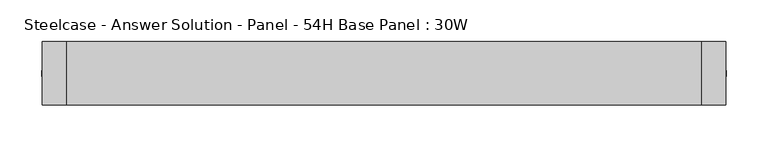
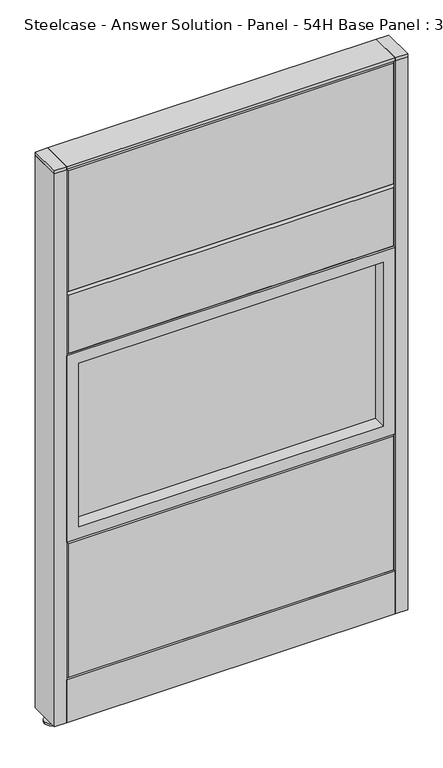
"""IFC4 building model written with IfcOpenShell, lengths in millimetres: furniture geometry, Steelcase - Answer Solution - Panel - 54H Base Panel : 30W."""

from ifc_helpers import new_model, si_unit, point, frame, frame_2d, origin, place, context, project, spatial, polyline, circle_curve, trimmed, segment, composite_curve, outline, extrude, faceted_brep, source, transform, mapped, element, save


def steelcase_answer_solution_panel_54h_base_panel_30w_b265888f(model_context):
    return source(origin(), model_context, "Body", "SolidModel", [
        extrude(outline(composite_curve([segment(trimmed(circle_curve(frame_2d((395.224, 0.0320214)), 5.08), [point((400.304, 0.0320214))], [point((390.144, 0.0320214))], False, "CARTESIAN"), True, "CONTINUOUS"), segment(trimmed(circle_curve(frame_2d((395.224, 0.0320214)), 5.08), [point((390.144, 0.0320214))], [point((400.304, 0.0320214))], False, "CARTESIAN"), True, "CONTINUOUS")], self_intersect=False)), frame((0.0, 0.0, 5.0799671), z_axis=(0.0, 0.0, 1.0), x_axis=(1.0, 0.0, 0.0)), (0.0, 0.0, 1.0), 10.414),
        extrude(outline(composite_curve([segment(trimmed(circle_curve(frame_2d((395.224, 0.0320214)), 15.24), [point((410.464, 0.0320214))], [point((379.984, 0.0320214))], False, "CARTESIAN"), True, "CONTINUOUS"), segment(trimmed(circle_curve(frame_2d((395.224, 0.0320214)), 15.24), [point((379.984, 0.0320214))], [point((410.464, 0.0320214))], False, "CARTESIAN"), True, "CONTINUOUS")], self_intersect=False)), frame((0.0, 0.0, -3.29e-05), z_axis=(0.0, 0.0, 1.0), x_axis=(1.0, 0.0, 0.0)), (0.0, 0.0, 1.0), 5.08),
        extrude(outline(polyline([(409.575, 38.1320408), (409.575, -38.0679592), (381.0, -38.0679592), (381.0, 38.1320408), (409.575, 38.1320408)])), frame((0.0, 0.0, 1370.6348), z_axis=(0.0, 0.0, 1.0), x_axis=(1.0, 0.0, 0.0)), (0.0, 0.0, 1.0), 7.3151671),
        extrude(outline(polyline([(409.575, 38.1320408), (409.575, -38.0679592), (381.0, -38.0679592), (381.0, 38.1320408), (409.575, 38.1320408)])), frame((0.0, 0.0, 15.4939671), z_axis=(0.0, 0.0, 1.0), x_axis=(1.0, 0.0, 0.0)), (0.0, 0.0, 1.0), 1355.1408329),
        extrude(outline(composite_curve([segment(trimmed(circle_curve(frame_2d((-395.224, 0.0320214)), 5.08), [point((-400.304, 0.0320214))], [point((-390.144, 0.0320214))], False, "CARTESIAN"), True, "CONTINUOUS"), segment(trimmed(circle_curve(frame_2d((-395.224, 0.0320214)), 5.08), [point((-390.144, 0.0320214))], [point((-400.304, 0.0320214))], False, "CARTESIAN"), True, "CONTINUOUS")], self_intersect=False)), frame((0.0, 0.0, 5.0799671), z_axis=(0.0, 0.0, 1.0), x_axis=(1.0, 0.0, 0.0)), (0.0, 0.0, 1.0), 10.414),
        extrude(outline(composite_curve([segment(trimmed(circle_curve(frame_2d((-395.224, 0.0320214)), 15.24), [point((-410.464, 0.0320214))], [point((-379.984, 0.0320214))], False, "CARTESIAN"), True, "CONTINUOUS"), segment(trimmed(circle_curve(frame_2d((-395.224, 0.0320214)), 15.24), [point((-379.984, 0.0320214))], [point((-410.464, 0.0320214))], False, "CARTESIAN"), True, "CONTINUOUS")], self_intersect=False)), frame((0.0, 0.0, -3.29e-05), z_axis=(0.0, 0.0, 1.0), x_axis=(1.0, 0.0, 0.0)), (0.0, 0.0, 1.0), 5.08),
        extrude(outline(polyline([(-409.575, 38.1320408), (-381.0, 38.1320408), (-381.0, -38.0679592), (-409.575, -38.0679592), (-409.575, 38.1320408)])), frame((0.0, 0.0, 1370.6348), z_axis=(0.0, 0.0, 1.0), x_axis=(1.0, 0.0, 0.0)), (0.0, 0.0, 1.0), 7.3151671),
        extrude(outline(polyline([(-409.575, 38.1320408), (-381.0, 38.1320408), (-381.0, -38.0679592), (-409.575, -38.0679592), (-409.575, 38.1320408)])), frame((0.0, 0.0, 15.4939671), z_axis=(0.0, 0.0, 1.0), x_axis=(1.0, 0.0, 0.0)), (0.0, 0.0, 1.0), 1355.1408329),
        extrude(outline(polyline([(-353.06, 6.346049), (353.06, 6.346049), (353.06, -6.353951), (-353.06, -6.353951), (-353.06, 6.346049)])), frame((0.0, 0.0, 485.14), z_axis=(0.0, 0.0, 1.0), x_axis=(1.0, 0.0, 0.0)), (0.0, 0.0, 1.0), 401.32),
        extrude(outline(polyline([(914.4, -381.0), (457.2, -381.0), (457.2, 381.0), (914.4, 381.0), (914.4, -381.0)]), holes=[polyline([(886.46, -353.06), (886.46, 353.06), (485.14, 353.06), (485.14, -353.06), (886.46, -353.06)])]), frame((0.0, -38.103951, 0.0), z_axis=(0.0, 1.0, 0.0), x_axis=(0.0, 0.0, 1.0)), (0.0, 0.0, 1.0), 76.2),
        faceted_brep([(-376.174, 38.1635011, 1366.774), (376.174, 38.1635011, 1366.774), (376.174, 38.1635011, 1071.626), (-376.174, 38.1635011, 1071.626), (-381.0, 33.3375011, 1371.6), (-381.0, 33.3375011, 1066.8), (381.0, 33.3375011, 1066.8), (381.0, 33.3375011, 1371.6)], [[[0, 1, 2, 3]], [[4, 5, 6, 7]], [[4, 7, 1, 0]], [[7, 6, 2, 1]], [[6, 5, 3, 2]], [[5, 4, 0, 3]]]),
        faceted_brep([(-376.174, 38.1635011, 1061.974), (376.174, 38.1635011, 1061.974), (376.174, 38.1635011, 919.226), (-376.174, 38.1635011, 919.226), (-381.0, 33.3375011, 1066.8), (-381.0, 33.3375011, 914.4), (381.0, 33.3375011, 914.4), (381.0, 33.3375011, 1066.8)], [[[0, 1, 2, 3]], [[4, 5, 6, 7]], [[4, 7, 1, 0]], [[7, 6, 2, 1]], [[6, 5, 3, 2]], [[5, 4, 0, 3]]]),
        faceted_brep([(-376.174, 38.1635011, 452.374), (376.174, 38.1635011, 452.374), (376.174, 38.1635011, 125.476), (-376.174, 38.1635011, 125.476), (-381.0, 33.3375011, 457.2), (-381.0, 33.3375011, 120.65), (381.0, 33.3375011, 120.65), (381.0, 33.3375011, 457.2)], [[[0, 1, 2, 3]], [[4, 5, 6, 7]], [[4, 7, 1, 0]], [[7, 6, 2, 1]], [[6, 5, 3, 2]], [[5, 4, 0, 3]]]),
        extrude(outline(polyline([(353.06, -6.346049), (-353.06, -6.346049), (-353.06, 6.353951), (353.06, 6.353951), (353.06, -6.346049)])), frame((0.0, 0.0, 485.14), z_axis=(0.0, 0.0, 1.0), x_axis=(1.0, 0.0, 0.0)), (0.0, 0.0, 1.0), 401.32),
        extrude(outline(polyline([(914.4, 381.0), (914.4, -381.0), (457.2, -381.0), (457.2, 381.0), (914.4, 381.0)]), holes=[polyline([(886.46, 353.06), (485.14, 353.06), (485.14, -353.06), (886.46, -353.06), (886.46, 353.06)])]), frame((0.0, -38.096049, 0.0), z_axis=(0.0, 1.0, 0.0), x_axis=(0.0, 0.0, 1.0)), (0.0, 0.0, 1.0), 76.2),
        faceted_brep([(376.174, -38.1635011, 1366.774), (-376.174, -38.1635011, 1366.774), (-376.174, -38.1635011, 1071.626), (376.174, -38.1635011, 1071.626), (381.0, -33.3375011, 1371.6), (381.0, -33.3375011, 1066.8), (-381.0, -33.3375011, 1066.8), (-381.0, -33.3375011, 1371.6)], [[[0, 1, 2, 3]], [[4, 5, 6, 7]], [[4, 7, 1, 0]], [[7, 6, 2, 1]], [[6, 5, 3, 2]], [[5, 4, 0, 3]]]),
        faceted_brep([(376.174, -38.1635011, 1061.974), (-376.174, -38.1635011, 1061.974), (-376.174, -38.1635011, 919.226), (376.174, -38.1635011, 919.226), (381.0, -33.3375011, 1066.8), (381.0, -33.3375011, 914.4), (-381.0, -33.3375011, 914.4), (-381.0, -33.3375011, 1066.8)], [[[0, 1, 2, 3]], [[4, 5, 6, 7]], [[4, 7, 1, 0]], [[7, 6, 2, 1]], [[6, 5, 3, 2]], [[5, 4, 0, 3]]]),
        faceted_brep([(376.174, -38.1635011, 452.374), (-376.174, -38.1635011, 452.374), (-376.174, -38.1635011, 125.476), (376.174, -38.1635011, 125.476), (381.0, -33.3375011, 457.2), (381.0, -33.3375011, 120.65), (-381.0, -33.3375011, 120.65), (-381.0, -33.3375011, 457.2)], [[[0, 1, 2, 3]], [[4, 5, 6, 7]], [[4, 7, 1, 0]], [[7, 6, 2, 1]], [[6, 5, 3, 2]], [[5, 4, 0, 3]]]),
        extrude(outline(polyline([(381.0, 38.1000194), (381.0, -38.1000194), (-381.0, -38.1000194), (-381.0, 38.1000194), (381.0, 38.1000194)])), frame((0.0, 0.0, 1371.6), z_axis=(0.0, 0.0, 1.0), x_axis=(1.0, 0.0, 0.0)), (0.0, 0.0, 1.0), 6.35),
        extrude(outline(polyline([(25.4000011, 119.8575157), (25.4000011, 120.65), (38.1000194, 120.65), (38.1000194, 15.494), (37.3075215, 15.494), (37.3075215, 119.8575157), (25.4000011, 119.8575157)])), frame((-381.0, 0.0, 0.0), z_axis=(1.0, 0.0, 0.0), x_axis=(0.0, 1.0, 0.0)), (0.0, 0.0, 1.0), 762.0),
        extrude(outline(polyline([(-25.4000011, 119.8575157), (-37.3075215, 119.8575157), (-37.3075215, 15.494), (-38.1000194, 15.494), (-38.1000194, 120.65), (-25.4000011, 120.65), (-25.4000011, 119.8575157)])), frame((-381.0, 0.0, 0.0), z_axis=(1.0, 0.0, 0.0), x_axis=(0.0, 1.0, 0.0)), (0.0, 0.0, 1.0), 762.0),
    ])


if __name__ == "__main__":
    model = new_model("IFC4")
    model_context = context("Model", 3, world=origin())
    ifc_project = project(units=[si_unit("LENGTHUNIT", "METRE", prefix="MILLI")], contexts=[model_context])
    site = spatial("IfcSite", under=ifc_project)
    building = spatial("IfcBuilding", under=site)
    placement = place(None, origin())
    steelcase_answer_solution_panel_54h_base_panel_30w_shape = steelcase_answer_solution_panel_54h_base_panel_30w_b265888f(model_context)
    element("IfcFurniture", 1, ObjectType="Steelcase - Answer Solution - Panel - 54H Base Panel : 30W", at=placement, inside=building, context=model_context, shape_type="MappedRepresentation", body=[
        mapped(steelcase_answer_solution_panel_54h_base_panel_30w_shape, transform((0.0, 0.0, 0.0), x_axis=(1.0, 0.0, 0.0), y_axis=(0.0, 1.0, 0.0), z_axis=(0.0, 0.0, 1.0))),
    ])
    save(model, "model.ifc")
